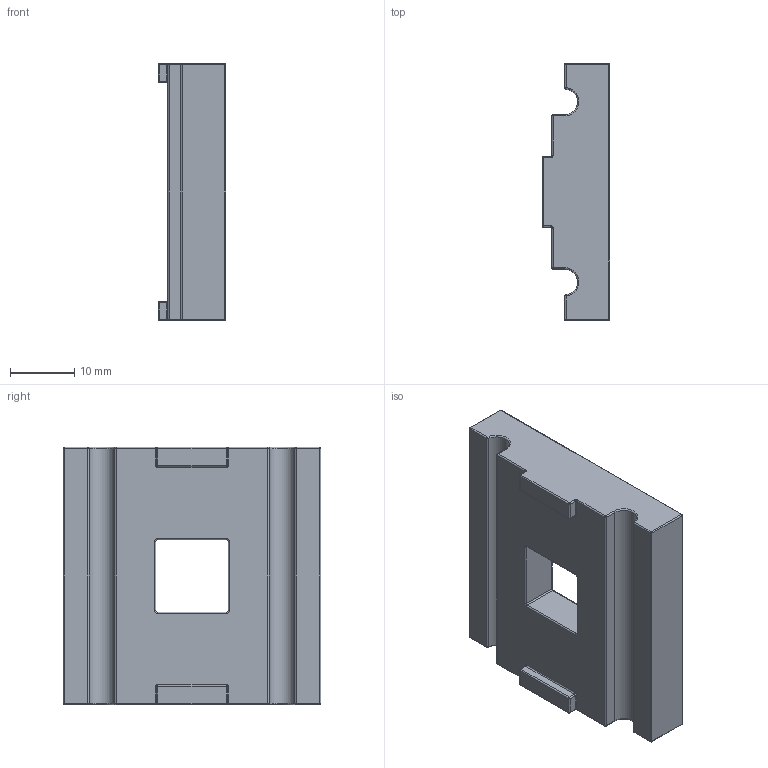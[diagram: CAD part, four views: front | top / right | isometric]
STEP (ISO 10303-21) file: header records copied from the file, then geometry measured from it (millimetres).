
FILE_DESCRIPTION((''),'2;1');
FILE_NAME('C:\Vault Klient\Projekt\Step\300-2040.stp','2009-12-04T10:35:20',('Mathias'),(''),'Autodesk Inventor 2010','Autodesk Inventor 2010','');
FILE_SCHEMA(('CONFIG_CONTROL_DESIGN'));
Length unit declared in the file: millimetre
Products named in the file (1): 300-2040
Bounding box: 10.5 x 40 x 40 mm (x, y, z)
Volume: 8241.6 mm3; surface area: 5171.9 mm2
Topology: 1 solids, 1 shells, 153 faces, 350 edges, 172 vertices
Faces by surface type: cylinder 74, plane 27, sphere 24, torus 20, bspline 8
Entity records: 4286 total; most frequent: CARTESIAN_POINT 928, DIRECTION 790, ORIENTED_EDGE 644, AXIS2_PLACEMENT_3D 322, EDGE_CURVE 322, CIRCLE 176, VERTEX_POINT 172, EDGE_LOOP 156
